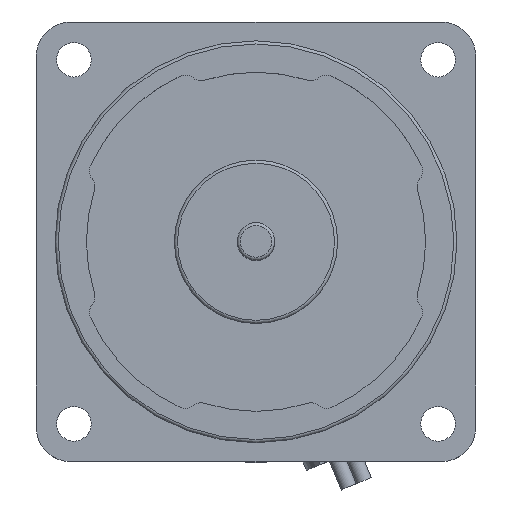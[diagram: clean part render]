
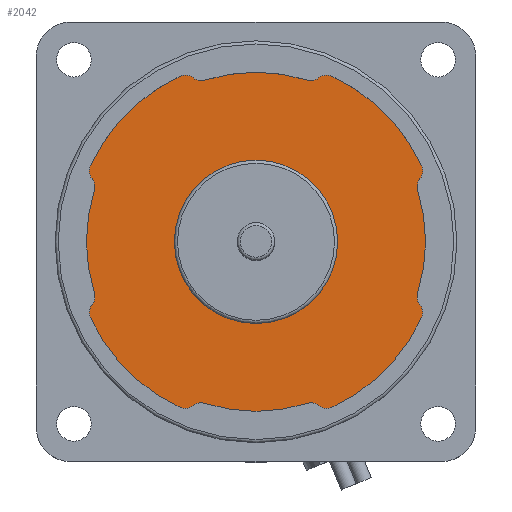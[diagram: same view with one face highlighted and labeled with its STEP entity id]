
A CAD part, top view. The second image highlights one B-rep face of the part: STEP entity #2042.
In plain terms, the highlighted planar face has unit normal (0, 0, 1).
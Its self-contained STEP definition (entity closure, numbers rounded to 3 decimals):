
#1023=CARTESIAN_POINT('',(26.096,-10.,124.));
#1024=VERTEX_POINT('',#1023);
#1040=CARTESIAN_POINT('',(25.744,-8.139,124.));
#1041=VERTEX_POINT('',#1040);
#1048=CARTESIAN_POINT('',(27.651,-8.742,124.));
#1049=DIRECTION('',(0.0,0.0,-1.0));
#1050=DIRECTION('',(-0.903,-0.43,0.0));
#1051=AXIS2_PLACEMENT_3D('',#1048,#1049,#1050);
#1052=CIRCLE('',#1051,2.0);
#1053=EDGE_CURVE('',#1041,#1024,#1052,.F.);
#1063=CARTESIAN_POINT('',(25.744,8.139,124.));
#1064=VERTEX_POINT('',#1063);
#1073=CARTESIAN_POINT('',(0.,0.,124.0));
#1074=DIRECTION('',(0.0,0.0,1.0));
#1075=DIRECTION('',(-0.93,0.367,0.0));
#1076=AXIS2_PLACEMENT_3D('',#1073,#1074,#1075);
#1077=CIRCLE('',#1076,27.);
#1078=EDGE_CURVE('',#1041,#1064,#1077,.T.);
#1096=CARTESIAN_POINT('',(26.096,10.,124.));
#1097=VERTEX_POINT('',#1096);
#1106=CARTESIAN_POINT('',(27.651,8.742,124.));
#1107=DIRECTION('',(0.0,0.0,-1.0));
#1108=DIRECTION('',(-0.903,0.43,0.0));
#1109=AXIS2_PLACEMENT_3D('',#1106,#1107,#1108);
#1110=CIRCLE('',#1109,2.0);
#1111=EDGE_CURVE('',#1097,#1064,#1110,.F.);
#1138=CARTESIAN_POINT('',(26.359,12.092,124.));
#1139=VERTEX_POINT('',#1138);
#1146=CARTESIAN_POINT('',(24.541,11.258,124.));
#1147=DIRECTION('',(0.0,0.0,1.0));
#1148=DIRECTION('',(-0.777,0.629,0.0));
#1149=AXIS2_PLACEMENT_3D('',#1146,#1147,#1148);
#1150=CIRCLE('',#1149,2.);
#1151=EDGE_CURVE('',#1097,#1139,#1150,.T.);
#1172=CARTESIAN_POINT('',(12.092,26.359,124.));
#1173=VERTEX_POINT('',#1172);
#1180=CARTESIAN_POINT('',(0.0,0.0,124.0));
#1181=DIRECTION('',(0.0,0.0,1.0));
#1182=DIRECTION('',(-0.93,-0.367,0.0));
#1183=AXIS2_PLACEMENT_3D('',#1180,#1181,#1182);
#1184=CIRCLE('',#1183,29.);
#1185=EDGE_CURVE('',#1139,#1173,#1184,.T.);
#1204=CARTESIAN_POINT('',(10.,26.096,124.));
#1205=VERTEX_POINT('',#1204);
#1212=CARTESIAN_POINT('',(11.258,24.541,124.));
#1213=DIRECTION('',(0.0,0.0,1.0));
#1214=DIRECTION('',(-0.417,-0.909,0.0));
#1215=AXIS2_PLACEMENT_3D('',#1212,#1213,#1214);
#1216=CIRCLE('',#1215,2.);
#1217=EDGE_CURVE('',#1173,#1205,#1216,.T.);
#1238=CARTESIAN_POINT('',(8.139,25.744,124.));
#1239=VERTEX_POINT('',#1238);
#1246=CARTESIAN_POINT('',(8.742,27.651,124.));
#1247=DIRECTION('',(0.0,0.0,-1.0));
#1248=DIRECTION('',(0.43,-0.903,0.0));
#1249=AXIS2_PLACEMENT_3D('',#1246,#1247,#1248);
#1250=CIRCLE('',#1249,2.0);
#1251=EDGE_CURVE('',#1239,#1205,#1250,.F.);
#1271=CARTESIAN_POINT('',(-8.139,25.744,124.));
#1272=VERTEX_POINT('',#1271);
#1279=CARTESIAN_POINT('',(0.,0.,124.0));
#1280=DIRECTION('',(0.0,0.0,1.0));
#1281=DIRECTION('',(-0.367,-0.93,0.0));
#1282=AXIS2_PLACEMENT_3D('',#1279,#1280,#1281);
#1283=CIRCLE('',#1282,27.);
#1284=EDGE_CURVE('',#1239,#1272,#1283,.T.);
#1294=CARTESIAN_POINT('',(-10.,26.096,124.));
#1295=VERTEX_POINT('',#1294);
#1304=CARTESIAN_POINT('',(-8.742,27.651,124.));
#1305=DIRECTION('',(0.0,0.0,-1.0));
#1306=DIRECTION('',(-0.43,-0.903,0.0));
#1307=AXIS2_PLACEMENT_3D('',#1304,#1305,#1306);
#1308=CIRCLE('',#1307,2.0);
#1309=EDGE_CURVE('',#1295,#1272,#1308,.F.);
#1336=CARTESIAN_POINT('',(-12.092,26.359,124.));
#1337=VERTEX_POINT('',#1336);
#1344=CARTESIAN_POINT('',(-11.258,24.541,124.));
#1345=DIRECTION('',(0.0,0.0,1.0));
#1346=DIRECTION('',(-0.629,-0.777,0.0));
#1347=AXIS2_PLACEMENT_3D('',#1344,#1345,#1346);
#1348=CIRCLE('',#1347,2.);
#1349=EDGE_CURVE('',#1295,#1337,#1348,.T.);
#1360=CARTESIAN_POINT('',(-26.359,12.092,124.));
#1361=VERTEX_POINT('',#1360);
#1370=CARTESIAN_POINT('',(0.0,0.0,124.0));
#1371=DIRECTION('',(0.0,0.0,1.0));
#1372=DIRECTION('',(0.367,-0.93,0.0));
#1373=AXIS2_PLACEMENT_3D('',#1370,#1371,#1372);
#1374=CIRCLE('',#1373,29.0);
#1375=EDGE_CURVE('',#1337,#1361,#1374,.T.);
#1402=CARTESIAN_POINT('',(-26.096,10.,124.));
#1403=VERTEX_POINT('',#1402);
#1410=CARTESIAN_POINT('',(-24.541,11.258,124.));
#1411=DIRECTION('',(0.0,0.0,1.0));
#1412=DIRECTION('',(0.909,-0.417,0.0));
#1413=AXIS2_PLACEMENT_3D('',#1410,#1411,#1412);
#1414=CIRCLE('',#1413,2.);
#1415=EDGE_CURVE('',#1361,#1403,#1414,.T.);
#1436=CARTESIAN_POINT('',(-25.744,8.139,124.));
#1437=VERTEX_POINT('',#1436);
#1444=CARTESIAN_POINT('',(-27.651,8.742,124.));
#1445=DIRECTION('',(0.0,0.0,-1.0));
#1446=DIRECTION('',(0.903,0.43,0.0));
#1447=AXIS2_PLACEMENT_3D('',#1444,#1445,#1446);
#1448=CIRCLE('',#1447,2.0);
#1449=EDGE_CURVE('',#1437,#1403,#1448,.F.);
#1459=CARTESIAN_POINT('',(-25.744,-8.139,124.));
#1460=VERTEX_POINT('',#1459);
#1469=CARTESIAN_POINT('',(0.,0.,124.0));
#1470=DIRECTION('',(0.0,0.0,1.0));
#1471=DIRECTION('',(0.93,-0.367,0.0));
#1472=AXIS2_PLACEMENT_3D('',#1469,#1470,#1471);
#1473=CIRCLE('',#1472,27.);
#1474=EDGE_CURVE('',#1437,#1460,#1473,.T.);
#1492=CARTESIAN_POINT('',(-26.096,-10.,124.));
#1493=VERTEX_POINT('',#1492);
#1502=CARTESIAN_POINT('',(-27.651,-8.742,124.));
#1503=DIRECTION('',(0.0,0.0,-1.0));
#1504=DIRECTION('',(0.903,-0.43,0.0));
#1505=AXIS2_PLACEMENT_3D('',#1502,#1503,#1504);
#1506=CIRCLE('',#1505,2.0);
#1507=EDGE_CURVE('',#1493,#1460,#1506,.F.);
#1534=CARTESIAN_POINT('',(-26.359,-12.092,124.));
#1535=VERTEX_POINT('',#1534);
#1542=CARTESIAN_POINT('',(-24.541,-11.258,124.));
#1543=DIRECTION('',(0.0,0.0,1.0));
#1544=DIRECTION('',(0.777,-0.629,0.0));
#1545=AXIS2_PLACEMENT_3D('',#1542,#1543,#1544);
#1546=CIRCLE('',#1545,2.);
#1547=EDGE_CURVE('',#1493,#1535,#1546,.T.);
#1558=CARTESIAN_POINT('',(-12.092,-26.359,124.));
#1559=VERTEX_POINT('',#1558);
#1568=CARTESIAN_POINT('',(0.0,0.0,124.0));
#1569=DIRECTION('',(0.0,0.0,1.0));
#1570=DIRECTION('',(0.93,0.367,0.0));
#1571=AXIS2_PLACEMENT_3D('',#1568,#1569,#1570);
#1572=CIRCLE('',#1571,29.);
#1573=EDGE_CURVE('',#1535,#1559,#1572,.T.);
#1600=CARTESIAN_POINT('',(-10.,-26.096,124.));
#1601=VERTEX_POINT('',#1600);
#1608=CARTESIAN_POINT('',(-11.258,-24.541,124.));
#1609=DIRECTION('',(0.0,0.0,1.0));
#1610=DIRECTION('',(0.417,0.909,0.0));
#1611=AXIS2_PLACEMENT_3D('',#1608,#1609,#1610);
#1612=CIRCLE('',#1611,2.);
#1613=EDGE_CURVE('',#1559,#1601,#1612,.T.);
#1634=CARTESIAN_POINT('',(-8.139,-25.744,124.));
#1635=VERTEX_POINT('',#1634);
#1642=CARTESIAN_POINT('',(-8.742,-27.651,124.));
#1643=DIRECTION('',(0.0,0.0,-1.0));
#1644=DIRECTION('',(-0.43,0.903,0.0));
#1645=AXIS2_PLACEMENT_3D('',#1642,#1643,#1644);
#1646=CIRCLE('',#1645,2.0);
#1647=EDGE_CURVE('',#1635,#1601,#1646,.F.);
#1657=CARTESIAN_POINT('',(8.139,-25.744,124.));
#1658=VERTEX_POINT('',#1657);
#1667=CARTESIAN_POINT('',(0.,0.,124.0));
#1668=DIRECTION('',(0.0,0.0,1.0));
#1669=DIRECTION('',(0.367,0.93,0.0));
#1670=AXIS2_PLACEMENT_3D('',#1667,#1668,#1669);
#1671=CIRCLE('',#1670,27.0);
#1672=EDGE_CURVE('',#1635,#1658,#1671,.T.);
#1690=CARTESIAN_POINT('',(10.,-26.096,124.));
#1691=VERTEX_POINT('',#1690);
#1700=CARTESIAN_POINT('',(8.742,-27.651,124.));
#1701=DIRECTION('',(0.0,0.0,-1.0));
#1702=DIRECTION('',(0.43,0.903,0.0));
#1703=AXIS2_PLACEMENT_3D('',#1700,#1701,#1702);
#1704=CIRCLE('',#1703,2.0);
#1705=EDGE_CURVE('',#1691,#1658,#1704,.F.);
#1732=CARTESIAN_POINT('',(12.092,-26.359,124.));
#1733=VERTEX_POINT('',#1732);
#1740=CARTESIAN_POINT('',(11.258,-24.541,124.));
#1741=DIRECTION('',(0.0,0.0,1.0));
#1742=DIRECTION('',(0.629,0.777,0.0));
#1743=AXIS2_PLACEMENT_3D('',#1740,#1741,#1742);
#1744=CIRCLE('',#1743,2.);
#1745=EDGE_CURVE('',#1691,#1733,#1744,.T.);
#1756=CARTESIAN_POINT('',(26.359,-12.092,124.));
#1757=VERTEX_POINT('',#1756);
#1766=CARTESIAN_POINT('',(0.0,0.0,124.0));
#1767=DIRECTION('',(0.0,0.0,1.0));
#1768=DIRECTION('',(-0.367,0.93,0.0));
#1769=AXIS2_PLACEMENT_3D('',#1766,#1767,#1768);
#1770=CIRCLE('',#1769,29.);
#1771=EDGE_CURVE('',#1733,#1757,#1770,.T.);
#1797=CARTESIAN_POINT('',(24.541,-11.258,124.));
#1798=DIRECTION('',(0.0,0.0,1.0));
#1799=DIRECTION('',(-0.909,0.417,0.0));
#1800=AXIS2_PLACEMENT_3D('',#1797,#1798,#1799);
#1801=CIRCLE('',#1800,2.);
#1802=EDGE_CURVE('',#1757,#1024,#1801,.T.);
#1924=CARTESIAN_POINT('',(13.0,0.,124.));
#1925=VERTEX_POINT('',#1924);
#1926=CARTESIAN_POINT('',(0.,0.,124.));
#1927=DIRECTION('',(0.0,0.0,-1.0));
#1928=DIRECTION('',(-1.0,0.0,0.0));
#1929=AXIS2_PLACEMENT_3D('',#1926,#1927,#1928);
#1930=CIRCLE('',#1929,13.0);
#1931=EDGE_CURVE('',#1925,#1925,#1930,.T.);
#2008=CARTESIAN_POINT('',(0.,0.,124.));
#2009=DIRECTION('',(0.0,0.0,1.0));
#2010=DIRECTION('',(1.0,0.0,0.0));
#2011=AXIS2_PLACEMENT_3D('',#2008,#2009,#2010);
#2012=PLANE('',#2011);
#2013=ORIENTED_EDGE('',*,*,#1802,.T.);
#2014=ORIENTED_EDGE('',*,*,#1053,.F.);
#2015=ORIENTED_EDGE('',*,*,#1078,.T.);
#2016=ORIENTED_EDGE('',*,*,#1111,.F.);
#2017=ORIENTED_EDGE('',*,*,#1151,.T.);
#2018=ORIENTED_EDGE('',*,*,#1185,.T.);
#2019=ORIENTED_EDGE('',*,*,#1217,.T.);
#2020=ORIENTED_EDGE('',*,*,#1251,.F.);
#2021=ORIENTED_EDGE('',*,*,#1284,.T.);
#2022=ORIENTED_EDGE('',*,*,#1309,.F.);
#2023=ORIENTED_EDGE('',*,*,#1349,.T.);
#2024=ORIENTED_EDGE('',*,*,#1375,.T.);
#2025=ORIENTED_EDGE('',*,*,#1415,.T.);
#2026=ORIENTED_EDGE('',*,*,#1449,.F.);
#2027=ORIENTED_EDGE('',*,*,#1474,.T.);
#2028=ORIENTED_EDGE('',*,*,#1507,.F.);
#2029=ORIENTED_EDGE('',*,*,#1547,.T.);
#2030=ORIENTED_EDGE('',*,*,#1573,.T.);
#2031=ORIENTED_EDGE('',*,*,#1613,.T.);
#2032=ORIENTED_EDGE('',*,*,#1647,.F.);
#2033=ORIENTED_EDGE('',*,*,#1672,.T.);
#2034=ORIENTED_EDGE('',*,*,#1705,.F.);
#2035=ORIENTED_EDGE('',*,*,#1745,.T.);
#2036=ORIENTED_EDGE('',*,*,#1771,.T.);
#2037=EDGE_LOOP('',(#2013,#2014,#2015,#2016,#2017,#2018,#2019,#2020,#2021,#2022,#2023,#2024,#2025,#2026,#2027,#2028,#2029,#2030,#2031,#2032,#2033,#2034,#2035,#2036));
#2038=FACE_OUTER_BOUND('',#2037,.T.);
#2039=ORIENTED_EDGE('',*,*,#1931,.T.);
#2040=EDGE_LOOP('',(#2039));
#2041=FACE_BOUND('',#2040,.T.);
#2042=ADVANCED_FACE('',(#2038,#2041),#2012,.T.);
